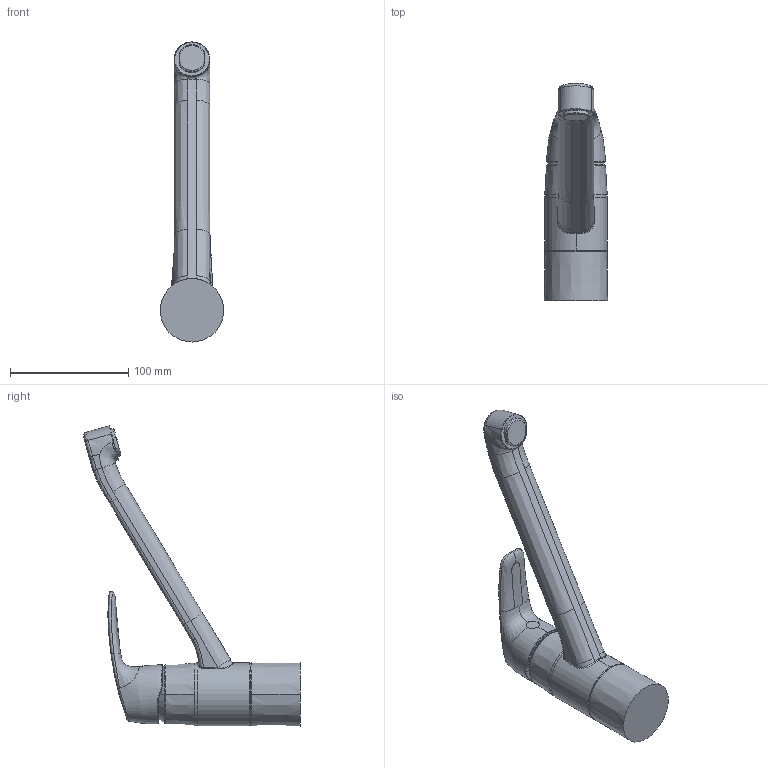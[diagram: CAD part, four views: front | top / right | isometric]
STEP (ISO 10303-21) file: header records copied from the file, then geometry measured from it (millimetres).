
FILE_DESCRIPTION (( 'STEP AP203' ), '1' );
FILE_NAME ('1030FS-107(2022).STEP', '2022-02-21T13:08:44', ( '' ), ( '' ), 'SwSTEP 2.0', 'SolidWorks 2016', '' );
FILE_SCHEMA (( 'CONFIG_CONTROL_DESIGN' ));
Length unit declared in the file: millimetre
Products named in the file (1): 1030FS-107(2022)
Bounding box: 53.73 x 183.47 x 253.97 mm (x, y, z)
Volume: 458253.7 mm3; surface area: 53234.3 mm2
Topology: 1 solids, 1 shells, 133 faces, 319 edges, 190 vertices
Faces by surface type: bspline 94, cylinder 15, plane 10, torus 8, cone 6
Entity records: 15983 total; most frequent: CARTESIAN_POINT 13570, ORIENTED_EDGE 638, EDGE_CURVE 319, DIRECTION 264, B_SPLINE_CURVE_WITH_KNOTS 202, VERTEX_POINT 190, EDGE_LOOP 135, FACE_OUTER_BOUND 133
